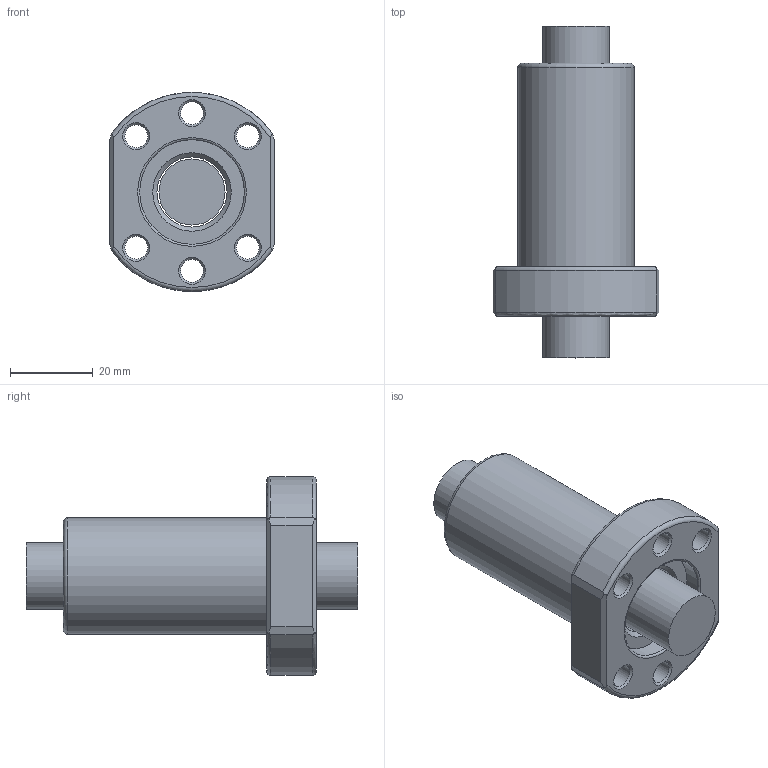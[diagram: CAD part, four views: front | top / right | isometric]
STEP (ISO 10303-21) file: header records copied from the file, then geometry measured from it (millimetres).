
FILE_DESCRIPTION(/* description */ (''),/* implementation_level */ '2;1');
FILE_NAME(/* name */ '1616.prt.step',/* time_stamp */ '2008-12-05T09:30:09+08:00',/* author */ (''),/* organization */ (''),/* preprocessor_version */ 'ST-DEVELOPER v11',/* originating_system */ 'SIEMENS UGS NX 6.0',/* authorisation */ '');
FILE_SCHEMA (('AUTOMOTIVE_DESIGN { 1 0 10303 214 1 1 1 1 }'));
Length unit declared in the file: millimetre
Products named in the file (1): 1616
Bounding box: 40 x 80 x 47.98 mm (x, y, z)
Volume: 48141.8 mm3; surface area: 17459.2 mm2
Topology: 2 solids, 2 shells, 50 faces, 118 edges, 74 vertices
Faces by surface type: plane 16, cone 14, cylinder 13, torus 7
Full cylindrical faces by diameter (mm): 5.5 x6, 15.95 x1, 16.9 x1, 25.2 x2, 28 x1
Entity records: 1526 total; most frequent: CARTESIAN_POINT 447, DIRECTION 218, ORIENTED_EDGE 172, AXIS2_PLACEMENT_3D 97, EDGE_LOOP 94, EDGE_CURVE 86, FACE_BOUND 76, VERTEX_POINT 70
